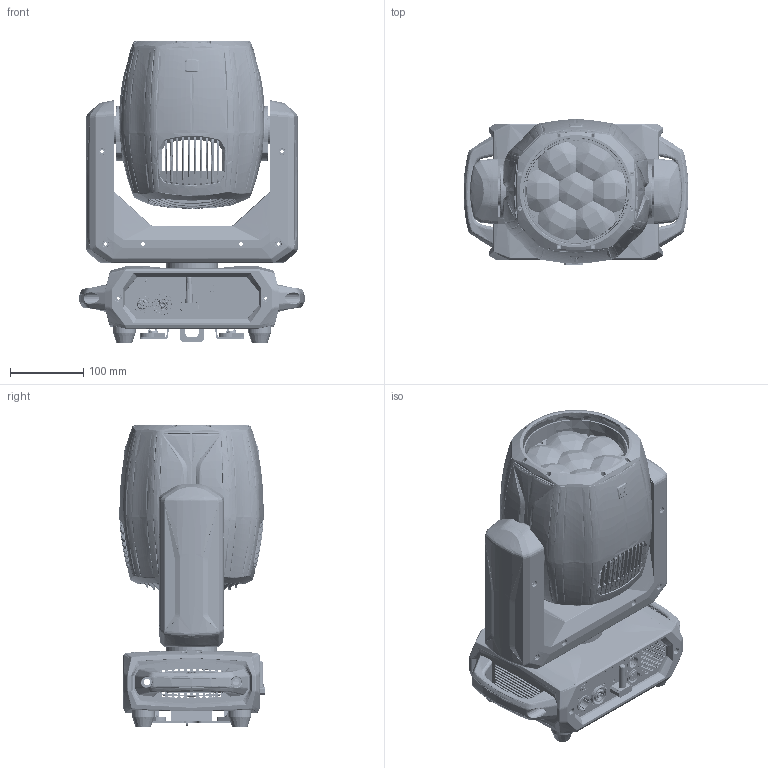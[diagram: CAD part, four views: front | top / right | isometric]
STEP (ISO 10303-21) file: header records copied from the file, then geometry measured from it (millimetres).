
FILE_DESCRIPTION (( 'STEP AP214' ), '1' );
FILE_NAME ('018220-1-Light Fixture.STEP', '2024-05-28T09:13:44', ( '' ), ( '' ), 'SwSTEP 2.0', 'SolidWorks 2021', '' );
FILE_SCHEMA (( 'AUTOMOTIVE_DESIGN' ));
Length unit declared in the file: millimetre
Products named in the file (1): 018220-1-Light Fixture
Bounding box: 307.51 x 198.7 x 414.07 mm (x, y, z)
Surface area: 1564965.7 mm2 (no closed solid volume)
Topology: 0 solids, 98 shells, 13168 faces, 35724 edges, 22724 vertices
Faces by surface type: bspline 5475, plane 4239, cylinder 2931, cone 509, torus 14
Entity records: 1056529 total; most frequent: CARTESIAN_POINT 632602, ORIENTED_EDGE 71024, DIRECTION 38799, EDGE_CURVE 35523, VERTEX_POINT 22726, B_SPLINE_CURVE_WITH_KNOTS 14461, EDGE_LOOP 14263, UNCERTAINTY_MEASURE_WITH_UNIT 13250
